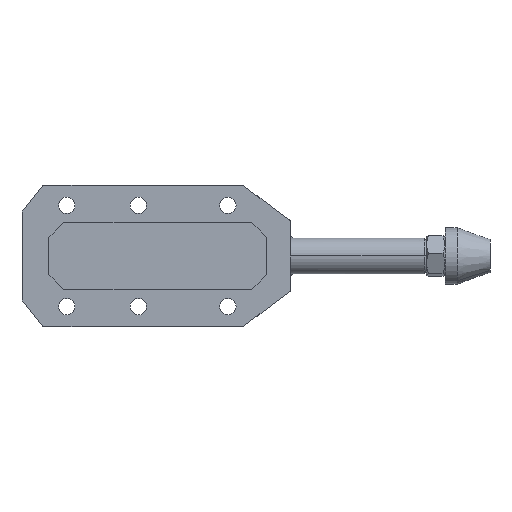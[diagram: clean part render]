
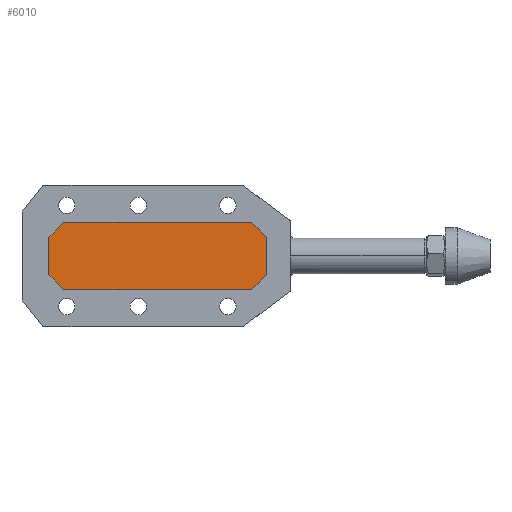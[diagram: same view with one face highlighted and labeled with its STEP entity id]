
A CAD part, front view. The second image highlights one B-rep face of the part: STEP entity #6010.
In plain terms, the highlighted planar face has unit normal (0, -1, 0).
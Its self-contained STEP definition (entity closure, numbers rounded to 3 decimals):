
#311 = ORIENTED_EDGE ( 'NONE', *, *, #26924, .T. ) ;
#917 = LINE ( 'NONE', #12893, #2345 ) ;
#1937 = ORIENTED_EDGE ( 'NONE', *, *, #18773, .T. ) ;
#2345 = VECTOR ( 'NONE', #13211, 1000. ) ;
#2821 = EDGE_CURVE ( 'NONE', #14383, #31673, #18079, .T. ) ;
#3342 = EDGE_CURVE ( 'NONE', #8544, #29118, #23076, .T. ) ;
#3904 = ORIENTED_EDGE ( 'NONE', *, *, #2821, .T. ) ;
#5385 = VECTOR ( 'NONE', #27270, 1000. ) ;
#5958 = VECTOR ( 'NONE', #26405, 1000. ) ;
#6010 = ADVANCED_FACE ( 'NONE', ( #31449 ), #28991, .F. ) ;
#6243 = VECTOR ( 'NONE', #12941, 1000. ) ;
#6535 = CARTESIAN_POINT ( 'NONE',  ( 32., 1.8, -11.25 ) ) ;
#8544 = VERTEX_POINT ( 'NONE', #27821 ) ;
#8687 = CARTESIAN_POINT ( 'NONE',  ( -36., 1.8, 6.25 ) ) ;
#8947 = CARTESIAN_POINT ( 'NONE',  ( -36., 1.8, -6.25 ) ) ;
#10867 = ORIENTED_EDGE ( 'NONE', *, *, #29304, .T. ) ;
#11279 = LINE ( 'NONE', #21265, #24761 ) ;
#11429 = DIRECTION ( 'NONE',  ( 0.707, 0., -0.707 ) ) ;
#11433 = CARTESIAN_POINT ( 'NONE',  ( -36., 1.8, -6.25 ) ) ;
#11947 = DIRECTION ( 'NONE',  ( 0., 1., 0. ) ) ;
#12759 = CARTESIAN_POINT ( 'NONE',  ( -31., 1.8, 11.25 ) ) ;
#12893 = CARTESIAN_POINT ( 'NONE',  ( 32., 1.8, -11.25 ) ) ;
#12941 = DIRECTION ( 'NONE',  ( 0., 0., 1. ) ) ;
#13175 = EDGE_CURVE ( 'NONE', #14796, #13366, #31128, .T. ) ;
#13211 = DIRECTION ( 'NONE',  ( 0.707, 0., 0.707 ) ) ;
#13366 = VERTEX_POINT ( 'NONE', #12759 ) ;
#14383 = VERTEX_POINT ( 'NONE', #17751 ) ;
#14511 = LINE ( 'NONE', #17275, #5385 ) ;
#14796 = VERTEX_POINT ( 'NONE', #30290 ) ;
#15638 = DIRECTION ( 'NONE',  ( 1., 0., 0. ) ) ;
#17179 = VERTEX_POINT ( 'NONE', #11433 ) ;
#17183 = DIRECTION ( 'NONE',  ( 0., 0., 1. ) ) ;
#17275 = CARTESIAN_POINT ( 'NONE',  ( -36., 1.8, 6.25 ) ) ;
#17293 = ORIENTED_EDGE ( 'NONE', *, *, #3342, .T. ) ;
#17751 = CARTESIAN_POINT ( 'NONE',  ( -31., 1.8, -11.25 ) ) ;
#18079 = LINE ( 'NONE', #28092, #28495 ) ;
#18523 = LINE ( 'NONE', #8687, #5958 ) ;
#18668 = DIRECTION ( 'NONE',  ( -1., 0., 0. ) ) ;
#18773 = EDGE_CURVE ( 'NONE', #31673, #8544, #917, .T. ) ;
#19618 = EDGE_CURVE ( 'NONE', #26561, #17179, #18523, .T. ) ;
#20750 = EDGE_LOOP ( 'NONE', ( #10867, #3904, #1937, #17293, #28214, #30931, #311, #26330 ) ) ;
#21027 = CARTESIAN_POINT ( 'NONE',  ( -36., 1.8, 6.25 ) ) ;
#21265 = CARTESIAN_POINT ( 'NONE',  ( 32., 1.8, 11.25 ) ) ;
#21421 = EDGE_CURVE ( 'NONE', #29118, #14796, #11279, .T. ) ;
#21930 = CARTESIAN_POINT ( 'NONE',  ( 0., 1.8, 0. ) ) ;
#22128 = VECTOR ( 'NONE', #11429, 1000. ) ;
#22402 = CARTESIAN_POINT ( 'NONE',  ( 37., 1.8, 6.25 ) ) ;
#23076 = LINE ( 'NONE', #24908, #6243 ) ;
#23294 = AXIS2_PLACEMENT_3D ( 'NONE', #21930, #11947, #17183 ) ;
#23877 = LINE ( 'NONE', #8947, #22128 ) ;
#24761 = VECTOR ( 'NONE', #31283, 1000. ) ;
#24908 = CARTESIAN_POINT ( 'NONE',  ( 37., 1.8, 6.25 ) ) ;
#26049 = CARTESIAN_POINT ( 'NONE',  ( -31., 1.8, 11.25 ) ) ;
#26071 = VECTOR ( 'NONE', #18668, 1000. ) ;
#26330 = ORIENTED_EDGE ( 'NONE', *, *, #19618, .T. ) ;
#26405 = DIRECTION ( 'NONE',  ( 0., 0., -1. ) ) ;
#26561 = VERTEX_POINT ( 'NONE', #21027 ) ;
#26924 = EDGE_CURVE ( 'NONE', #13366, #26561, #14511, .T. ) ;
#27270 = DIRECTION ( 'NONE',  ( -0.707, 0., -0.707 ) ) ;
#27821 = CARTESIAN_POINT ( 'NONE',  ( 37., 1.8, -6.25 ) ) ;
#28092 = CARTESIAN_POINT ( 'NONE',  ( -31., 1.8, -11.25 ) ) ;
#28214 = ORIENTED_EDGE ( 'NONE', *, *, #21421, .T. ) ;
#28495 = VECTOR ( 'NONE', #15638, 1000. ) ;
#28991 = PLANE ( 'NONE',  #23294 ) ;
#29118 = VERTEX_POINT ( 'NONE', #22402 ) ;
#29304 = EDGE_CURVE ( 'NONE', #17179, #14383, #23877, .T. ) ;
#30290 = CARTESIAN_POINT ( 'NONE',  ( 32., 1.8, 11.25 ) ) ;
#30931 = ORIENTED_EDGE ( 'NONE', *, *, #13175, .T. ) ;
#31128 = LINE ( 'NONE', #26049, #26071 ) ;
#31283 = DIRECTION ( 'NONE',  ( -0.707, 0., 0.707 ) ) ;
#31449 = FACE_OUTER_BOUND ( 'NONE', #20750, .T. ) ;
#31673 = VERTEX_POINT ( 'NONE', #6535 ) ;
